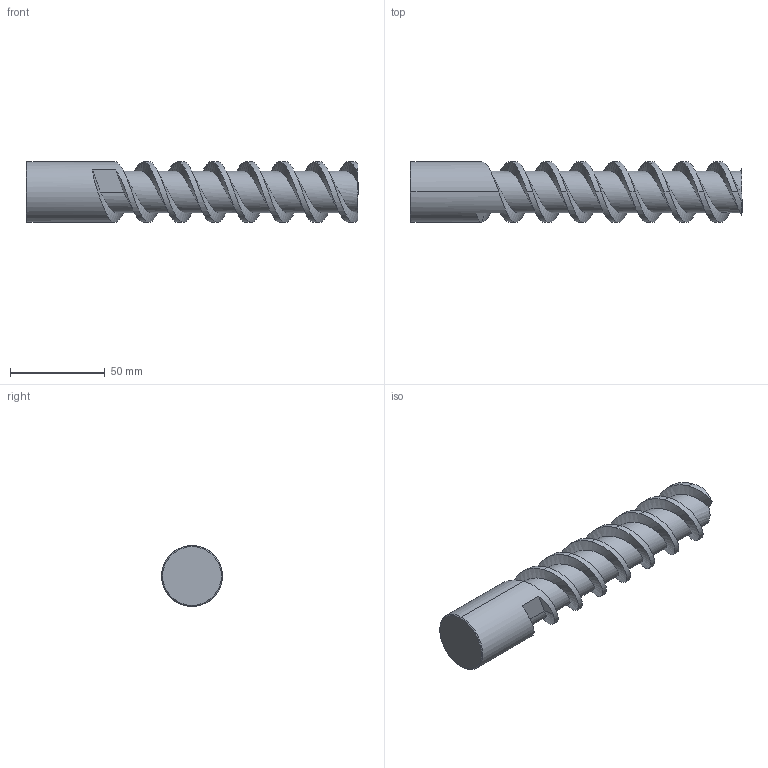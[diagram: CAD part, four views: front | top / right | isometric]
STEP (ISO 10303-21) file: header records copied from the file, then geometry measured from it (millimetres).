
FILE_DESCRIPTION (( 'STEP AP214' ), '1' );
FILE_NAME ('E2122_32_175.STEP', '2013-04-10T07:10:21', ( '' ), ( '' ), 'SwSTEP 2.0', 'SolidWorks 2013', '' );
FILE_SCHEMA (( 'AUTOMOTIVE_DESIGN' ));
Length unit declared in the file: millimetre
Products named in the file (1): E2122_32_175
Bounding box: 175 x 32 x 32 mm (x, y, z)
Volume: 97650.3 mm3; surface area: 21058.1 mm2
Topology: 1 solids, 1 shells, 32 faces, 84 edges, 54 vertices
Faces by surface type: cylinder 16, plane 8, bspline 6, cone 2
Entity records: 7364 total; most frequent: CARTESIAN_POINT 6345, ORIENTED_EDGE 168, DIRECTION 96, EDGE_CURVE 84, VERTEX_POINT 54, UNCERTAINTY_MEASURE_WITH_UNIT 35, SURFACE_SIDE_STYLE 34, FILL_AREA_STYLE_COLOUR 34
